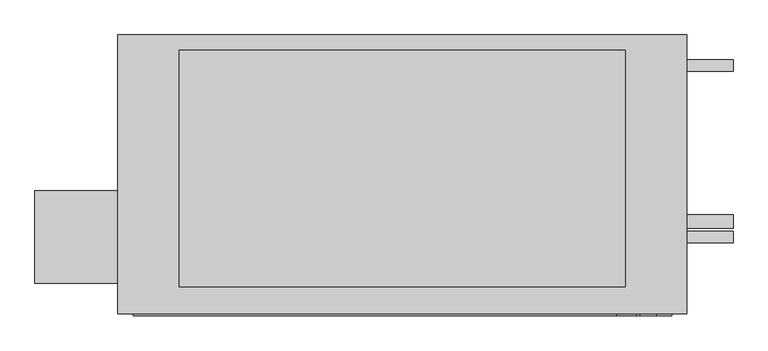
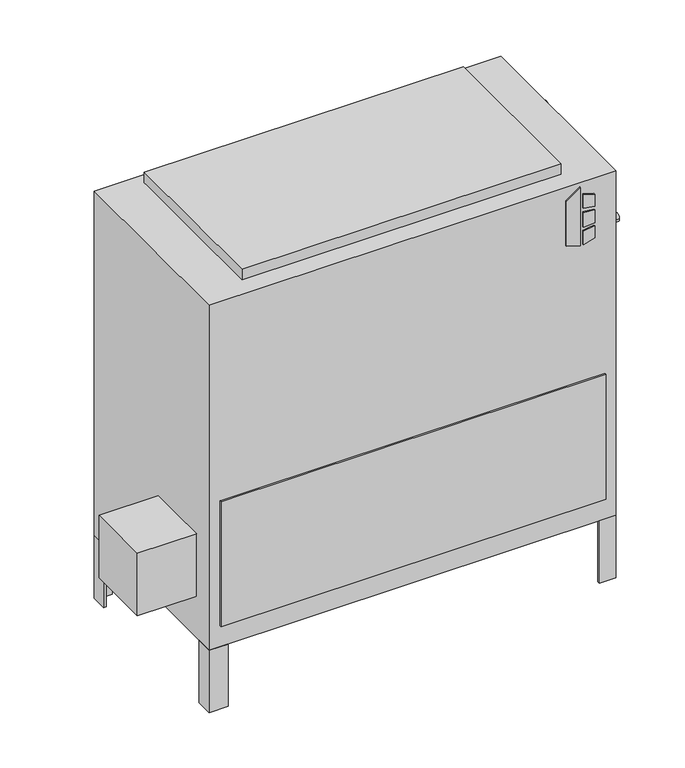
"""IFC4 building model written with IfcOpenShell, lengths in millimetres: proxy geometry, Concealed_High_Capacity_Vertical_Fan_Coil_Unit_-_VEY_-_IEC_-_2-Pipe_Cool-EHeat_RH_2022 : Size 12 - 277v/60Hz/1Ph - 6 Row 9.0kW."""

from ifc_helpers import new_model, si_unit, point, frame, frame_2d, origin, origin_with_axes, place, context, project, spatial, polyline, circle_curve, trimmed, segment, composite_curve, outline, extrude, source, transform, mapped, element, save


def mechanical_equipment_91e453f3(model_context):
    return source(origin(), model_context, "Body", "SweptSolid", [
        extrude(outline(polyline([(698.9230703, 506.4868862), (688.975, 538.6602728), (831.1459244, 538.6602728), (808.1239183, 506.4868862), (698.9230703, 506.4868862)])), frame((0.0, -471.4875, 0.0), z_axis=(0.0, 1.0, 0.0), x_axis=(0.0, 0.0, 1.0)), (0.0, 0.0, 1.0), 3.175),
        extrude(outline(polyline([(777.9223557, 545.4186058), (774.7199632, 571.5), (803.9488042, 571.5), (812.0132193, 545.4186058), (777.9223557, 545.4186058)])), frame((0.0, -471.4875, 0.0), z_axis=(0.0, 1.0, 0.0), x_axis=(0.0, 0.0, 1.0)), (0.0, 0.0, 1.0), 3.175),
        extrude(outline(polyline([(726.0588288, 571.5), (722.3933279, 545.4186058), (688.975, 545.4186058), (697.6092372, 571.5), (726.0588288, 571.5)])), frame((0.0, -471.4875, 0.0), z_axis=(0.0, 1.0, 0.0), x_axis=(0.0, 0.0, 1.0)), (0.0, 0.0, 1.0), 3.175),
        extrude(outline(polyline([(765.3739903, 571.5), (767.6558166, 545.4186058), (731.7182681, 545.4186058), (734.4595331, 571.5), (765.3739903, 571.5)])), frame((0.0, -471.4875, 0.0), z_axis=(0.0, 1.0, 0.0), x_axis=(0.0, 0.0, 1.0)), (0.0, 0.0, 1.0), 3.175),
        extrude(outline(polyline([(-454.025, -417.5125), (-454.025, -265.1125), (-317.5, -265.1125), (-317.5, -417.5125), (-454.025, -417.5125)])), frame((0.0, 0.0, 101.6), z_axis=(0.0, 0.0, 1.0), x_axis=(1.0, 0.0, 0.0)), (0.0, 0.0, 1.0), 152.4),
        extrude(outline(polyline([(622.3, -46.0375), (615.95, -46.0375), (615.95, -14.2875), (584.2, -14.2875), (584.2, -7.9375), (622.3, -7.9375), (622.3, -46.0375)])), frame((0.0, 0.0, -152.4), z_axis=(0.0, 0.0, 1.0), x_axis=(1.0, 0.0, 0.0)), (0.0, 0.0, 1.0), 152.4),
        extrude(outline(polyline([(-279.4, -7.9375), (-279.4, -14.2875), (-311.15, -14.2875), (-311.15, -46.0375), (-317.5, -46.0375), (-317.5, -7.9375), (-279.4, -7.9375)])), frame((0.0, 0.0, -152.4), z_axis=(0.0, 0.0, 1.0), x_axis=(1.0, 0.0, 0.0)), (0.0, 0.0, 1.0), 152.4),
        extrude(outline(polyline([(584.2, -468.3125), (584.2, -461.9625), (615.95, -461.9625), (615.95, -430.2125), (622.3, -430.2125), (622.3, -468.3125), (584.2, -468.3125)])), frame((0.0, 0.0, -152.4), z_axis=(0.0, 0.0, 1.0), x_axis=(1.0, 0.0, 0.0)), (0.0, 0.0, 1.0), 152.4),
        extrude(outline(polyline([(-317.5, -428.1199163), (-311.15, -428.1199163), (-311.15, -461.9625), (-274.0318533, -461.9625), (-274.0318533, -468.3125), (-317.5, -468.3125), (-317.5, -428.1199163)])), frame((0.0, 0.0, -152.4), z_axis=(0.0, 0.0, 1.0), x_axis=(1.0, 0.0, 0.0)), (0.0, 0.0, 1.0), 152.4),
        extrude(outline(polyline([(520.7, -33.3375), (520.7, -423.8625), (-215.9, -423.8625), (-215.9, -33.3375), (520.7, -33.3375)])), frame((0.0, 0.0, 841.375), z_axis=(0.0, 0.0, 1.0), x_axis=(1.0, 0.0, 0.0)), (0.0, 0.0, 1.0), 25.4),
        extrude(outline(polyline([(596.9, -471.4875), (-292.1, -471.4875), (-292.1, -468.3125), (596.9, -468.3125), (596.9, -471.4875)])), frame((0.0, 0.0, 50.8), z_axis=(0.0, 0.0, 1.0), x_axis=(1.0, 0.0, 0.0)), (0.0, 0.0, 1.0), 304.8),
        extrude(outline(composite_curve([segment(trimmed(circle_curve(frame_2d((-58.7375, 727.075)), 9.525), [point((-49.2125, 727.075))], [point((-68.2625, 727.075))], False, "CARTESIAN"), True, "CONTINUOUS"), segment(trimmed(circle_curve(frame_2d((-58.7375, 727.075)), 9.525), [point((-68.2625, 727.075))], [point((-49.2125, 727.075))], False, "CARTESIAN"), True, "CONTINUOUS")], self_intersect=False)), frame((622.3, 0.0, 0.0), z_axis=(1.0, 0.0, 0.0), x_axis=(0.0, 1.0, 0.0)), (0.0, 0.0, 1.0), 76.2),
        extrude(outline(composite_curve([segment(trimmed(circle_curve(frame_2d((-341.3125, 625.475)), 9.525), [point((-331.7875, 625.475))], [point((-350.8375, 625.475))], False, "CARTESIAN"), True, "CONTINUOUS"), segment(trimmed(circle_curve(frame_2d((-341.3125, 625.475)), 9.525), [point((-350.8375, 625.475))], [point((-331.7875, 625.475))], False, "CARTESIAN"), True, "CONTINUOUS")], self_intersect=False)), frame((622.3, 0.0, 0.0), z_axis=(1.0, 0.0, 0.0), x_axis=(0.0, 1.0, 0.0)), (0.0, 0.0, 1.0), 76.2),
        extrude(outline(composite_curve([segment(trimmed(circle_curve(frame_2d((-315.9125, 536.575)), 11.1125), [point((-304.8, 536.575))], [point((-327.025, 536.575))], False, "CARTESIAN"), True, "CONTINUOUS"), segment(trimmed(circle_curve(frame_2d((-315.9125, 536.575)), 11.1125), [point((-327.025, 536.575))], [point((-304.8, 536.575))], False, "CARTESIAN"), True, "CONTINUOUS")], self_intersect=False)), frame((622.3, 0.0, 0.0), z_axis=(1.0, 0.0, 0.0), x_axis=(0.0, 1.0, 0.0)), (0.0, 0.0, 1.0), 76.2),
        extrude(outline(polyline([(622.3, -7.9375), (622.3, -468.3125), (-317.5, -468.3125), (-317.5, -7.9375), (622.3, -7.9375)])), origin_with_axes(), (0.0, 0.0, 1.0), 841.375),
    ])


if __name__ == "__main__":
    model = new_model("IFC4")
    model_context = context("Model", 3, world=origin())
    ifc_project = project(units=[si_unit("LENGTHUNIT", "METRE", prefix="MILLI")], contexts=[model_context])
    site = spatial("IfcSite", under=ifc_project)
    building = spatial("IfcBuilding", under=site)
    placement = place(None, origin())
    mechanical_equipment_shape = mechanical_equipment_91e453f3(model_context)
    element("IfcBuildingElementProxy", 1, Name="Concealed_High_Capacity_Vertical_Fan_Coil_Unit_-_VEY_-_IEC_-_2-Pipe_Cool-EHeat_RH_2022 : Size 12 - 277v/60Hz/1Ph - 6 Row 9.0kW", ObjectType="Concealed_High_Capacity_Vertical_Fan_Coil_Unit_-_VEY_-_IEC_-_2-Pipe_Cool-EHeat_RH_2022 : Size 12 - 277v/60Hz/1Ph - 6 Row 9.0kW", at=placement, inside=building, context=model_context, shape_type="MappedRepresentation", body=[
        mapped(mechanical_equipment_shape, transform((0.0, 0.0, 0.0), x_axis=(1.0, 0.0, 0.0), y_axis=(0.0, 1.0, 0.0), z_axis=(0.0, 0.0, 1.0))),
    ])
    save(model, "model.ifc")
